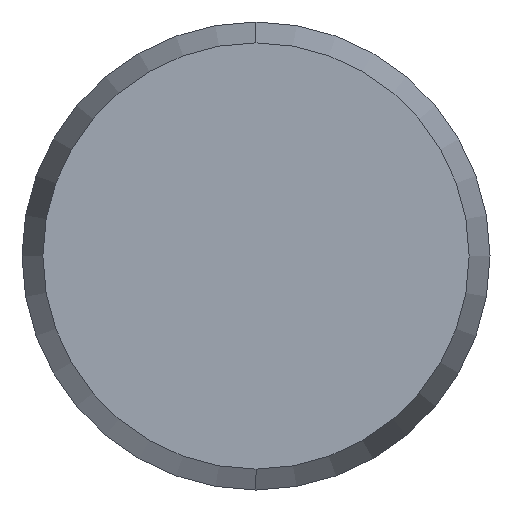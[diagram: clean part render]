
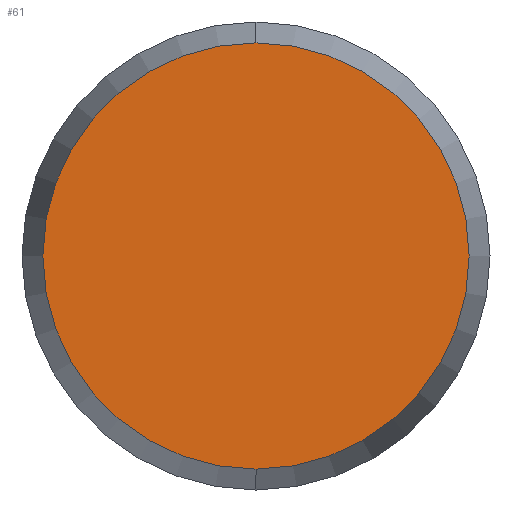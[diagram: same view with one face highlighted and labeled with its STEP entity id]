
A CAD part, left-side view. The second image highlights one B-rep face of the part: STEP entity #61.
In plain terms, the highlighted planar face has unit normal (-1, 0, 0).
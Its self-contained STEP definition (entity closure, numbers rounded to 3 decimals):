
#2 = EDGE_CURVE ( 'NONE', #31, #30, #56, .T. ) ;
#29 = EDGE_CURVE ( 'NONE', #30, #31, #128, .T. ) ;
#30 = VERTEX_POINT ( 'NONE', #90 ) ;
#31 = VERTEX_POINT ( 'NONE', #89 ) ;
#52 = DIRECTION ( 'NONE',  ( 0., 0., -1. ) ) ;
#53 = DIRECTION ( 'NONE',  ( 1., 0., 0. ) ) ;
#54 = CARTESIAN_POINT ( 'NONE',  ( -6., 0., 0. ) ) ;
#55 = AXIS2_PLACEMENT_3D ( 'NONE', #54, #53, #52 ) ;
#56 = CIRCLE ( 'NONE', #55, 2.732 ) ;
#61 = ADVANCED_FACE ( 'NONE', ( #74 ), #70, .F. ) ;
#62 = EDGE_LOOP ( 'NONE', ( #63, #64 ) ) ;
#63 = ORIENTED_EDGE ( 'NONE', *, *, #29, .F. ) ;
#64 = ORIENTED_EDGE ( 'NONE', *, *, #2, .F. ) ;
#66 = DIRECTION ( 'NONE',  ( 0., 0., -1. ) ) ;
#67 = DIRECTION ( 'NONE',  ( 1., 0., 0. ) ) ;
#68 = CARTESIAN_POINT ( 'NONE',  ( -6., 0., 0. ) ) ;
#69 = AXIS2_PLACEMENT_3D ( 'NONE', #68, #67, #66 ) ;
#70 = PLANE ( 'NONE',  #69 ) ;
#74 = FACE_OUTER_BOUND ( 'NONE', #62, .T. ) ;
#89 = CARTESIAN_POINT ( 'NONE',  ( -6., 0., -2.732 ) ) ;
#90 = CARTESIAN_POINT ( 'NONE',  ( -6., 0., 2.732 ) ) ;
#91 = DIRECTION ( 'NONE',  ( 0., 0., -1. ) ) ;
#92 = DIRECTION ( 'NONE',  ( 1., 0., 0. ) ) ;
#93 = CARTESIAN_POINT ( 'NONE',  ( -6., 0., 0. ) ) ;
#94 = AXIS2_PLACEMENT_3D ( 'NONE', #93, #92, #91 ) ;
#128 = CIRCLE ( 'NONE', #94, 2.732 ) ;
